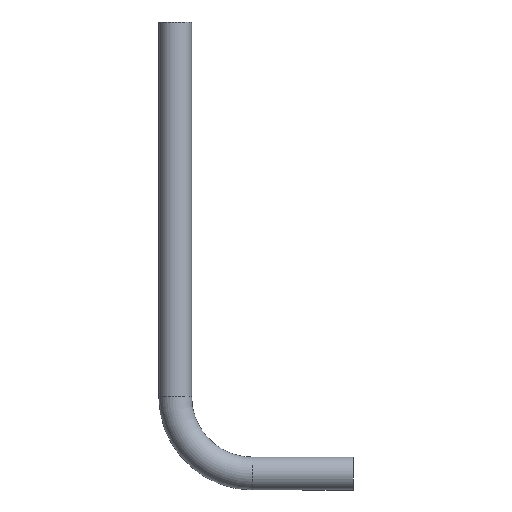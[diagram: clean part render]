
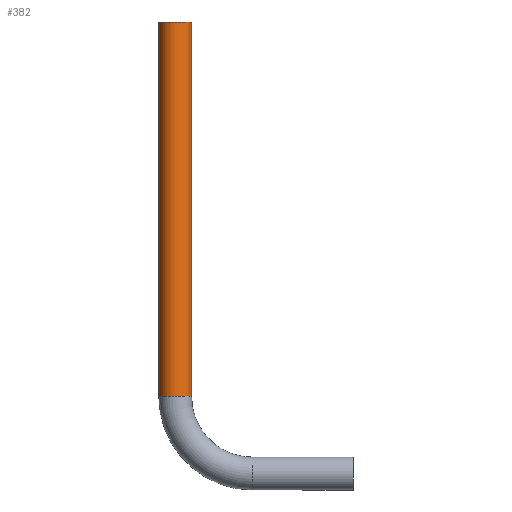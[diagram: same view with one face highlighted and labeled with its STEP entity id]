
A CAD part, top view. The second image highlights one B-rep face of the part: STEP entity #382.
In plain terms, the highlighted cylindrical face has radius 27 mm (diameter 54 mm), a partial arc.
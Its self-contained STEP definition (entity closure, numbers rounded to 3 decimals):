
#13 = DIRECTION ( 'NONE',  ( 0., 1., 0. ) ) ;
#16 = CARTESIAN_POINT ( 'NONE',  ( -27., 127., 0. ) ) ;
#17 = LINE ( 'NONE', #16, #298 ) ;
#18 = DIRECTION ( 'NONE',  ( 0., 1., 0. ) ) ;
#19 = DIRECTION ( 'NONE',  ( 0., 0., 1. ) ) ;
#21 = DIRECTION ( 'NONE',  ( 0., 1., 0. ) ) ;
#22 = CARTESIAN_POINT ( 'NONE',  ( 0., 743., 0. ) ) ;
#28 = CARTESIAN_POINT ( 'NONE',  ( 27., 127., 0. ) ) ;
#29 = LINE ( 'NONE', #28, #296 ) ;
#51 = CARTESIAN_POINT ( 'NONE',  ( -27., 743., 0. ) ) ;
#64 = CARTESIAN_POINT ( 'NONE',  ( -27., 127., 0. ) ) ;
#66 = CARTESIAN_POINT ( 'NONE',  ( 27., 743., 0. ) ) ;
#71 = CARTESIAN_POINT ( 'NONE',  ( 27., 127., 0. ) ) ;
#82 = VERTEX_POINT ( 'NONE', #71 ) ;
#91 = DIRECTION ( 'NONE',  ( 0., 0., 1. ) ) ;
#92 = DIRECTION ( 'NONE',  ( 0., 1., 0. ) ) ;
#94 = CARTESIAN_POINT ( 'NONE',  ( 0., 127., 0. ) ) ;
#95 = VERTEX_POINT ( 'NONE', #66 ) ;
#188 = AXIS2_PLACEMENT_3D ( 'NONE', #399, #394, #401 ) ;
#204 = VERTEX_POINT ( 'NONE', #64 ) ;
#209 = VERTEX_POINT ( 'NONE', #51 ) ;
#224 = EDGE_LOOP ( 'NONE', ( #275, #276, #278, #283 ) ) ;
#275 = ORIENTED_EDGE ( 'NONE', *, *, #347, .T. ) ;
#276 = ORIENTED_EDGE ( 'NONE', *, *, #363, .T. ) ;
#278 = ORIENTED_EDGE ( 'NONE', *, *, #362, .F. ) ;
#283 = ORIENTED_EDGE ( 'NONE', *, *, #364, .F. ) ;
#295 = CIRCLE ( 'NONE', #297, 27. ) ;
#296 = VECTOR ( 'NONE', #18, 1000. ) ;
#297 = AXIS2_PLACEMENT_3D ( 'NONE', #22, #21, #19 ) ;
#298 = VECTOR ( 'NONE', #13, 1000. ) ;
#304 = CIRCLE ( 'NONE', #305, 27. ) ;
#305 = AXIS2_PLACEMENT_3D ( 'NONE', #94, #92, #91 ) ;
#347 = EDGE_CURVE ( 'NONE', #204, #82, #304, .T. ) ;
#362 = EDGE_CURVE ( 'NONE', #209, #95, #295, .T. ) ;
#363 = EDGE_CURVE ( 'NONE', #82, #95, #29, .T. ) ;
#364 = EDGE_CURVE ( 'NONE', #204, #209, #17, .T. ) ;
#382 = ADVANCED_FACE ( 'NONE', ( #398 ), #400, .T. ) ;
#394 = DIRECTION ( 'NONE',  ( 0., 1., 0. ) ) ;
#398 = FACE_OUTER_BOUND ( 'NONE', #224, .T. ) ;
#399 = CARTESIAN_POINT ( 'NONE',  ( 0., 127., 0. ) ) ;
#400 = CYLINDRICAL_SURFACE ( 'NONE', #188, 27. ) ;
#401 = DIRECTION ( 'NONE',  ( -1., 0., 0. ) ) ;
